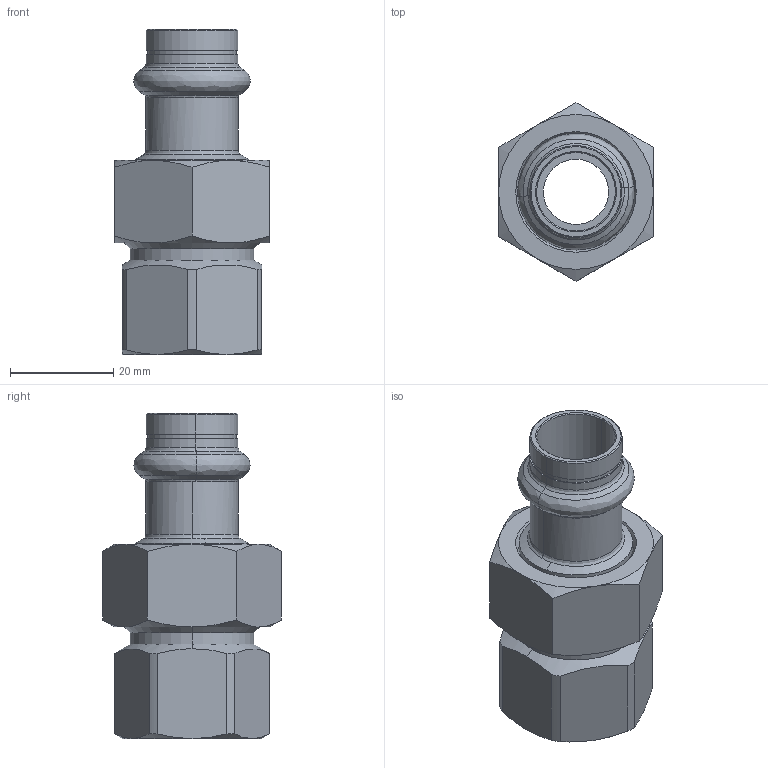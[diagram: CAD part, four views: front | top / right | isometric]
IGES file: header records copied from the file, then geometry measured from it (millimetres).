
Start section: Elysium IGES Interface
Global section: file name: C:\3d modellen sudo\C-Pr VP\SP8330GV\8330GVW1512.igs; native system: CoCreate Modeling 17.00A  17-Jun-2010; preprocessor: CoCreate IGES_3D V2.2; author: Unknown; organization: Unknown; date: 20130305.130247; units: millimetre
Bounding box: 30 x 34.64 x 63 mm (x, y, z)
Volume: 18851.3 mm3; surface area: 12446.2 mm2
Topology: 3 solids, 3 shells, 128 faces, 292 edges, 174 vertices
Faces by surface type: bspline 128
